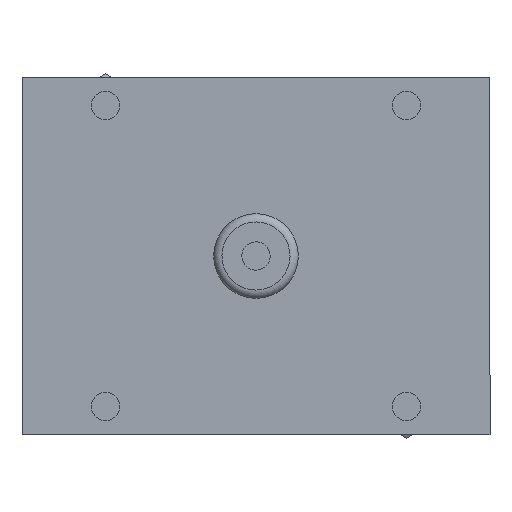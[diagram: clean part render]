
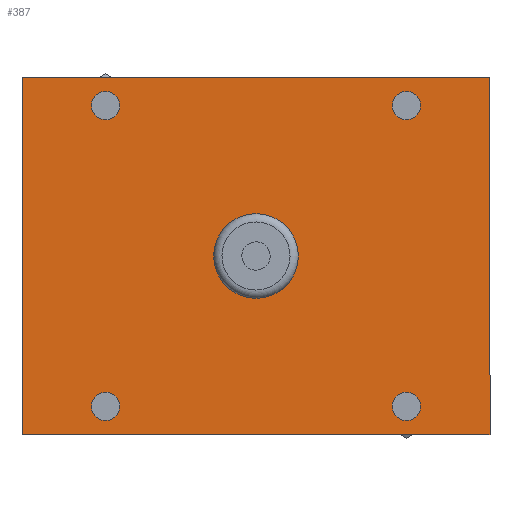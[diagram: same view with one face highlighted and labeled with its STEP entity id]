
A CAD part, front view. The second image highlights one B-rep face of the part: STEP entity #387.
In plain terms, the highlighted planar face has unit normal (0, -1, 0).
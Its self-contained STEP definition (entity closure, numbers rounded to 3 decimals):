
#277=CARTESIAN_POINT('',(0.,0.,-9.936));
#278=VERTEX_POINT('',#277);
#279=CARTESIAN_POINT('',(0.,0.0,0.));
#280=DIRECTION('',(0.0,1.0,0.0));
#281=DIRECTION('',(0.0,0.0,1.0));
#282=AXIS2_PLACEMENT_3D('',#279,#280,#281);
#283=CIRCLE('',#282,9.936);
#284=EDGE_CURVE('',#278,#278,#283,.T.);
#301=CARTESIAN_POINT('',(0.,0.,0.));
#302=DIRECTION('',(0.0,1.0,0.0));
#303=DIRECTION('',(0.0,0.0,-1.0));
#304=AXIS2_PLACEMENT_3D('',#301,#302,#303);
#305=PLANE('',#304);
#306=CARTESIAN_POINT('',(-55.,0.,42.));
#307=VERTEX_POINT('',#306);
#308=CARTESIAN_POINT('',(-55.,0.,-42.));
#309=VERTEX_POINT('',#308);
#310=CARTESIAN_POINT('',(-55.,0.,42.));
#311=DIRECTION('',(0.0,0.0,-1.0));
#312=VECTOR('',#311,84.);
#313=LINE('',#310,#312);
#314=EDGE_CURVE('',#307,#309,#313,.T.);
#315=ORIENTED_EDGE('',*,*,#314,.T.);
#316=CARTESIAN_POINT('',(55.,0.,-42.));
#317=VERTEX_POINT('',#316);
#318=CARTESIAN_POINT('',(-55.,0.,-42.));
#319=DIRECTION('',(1.0,0.0,0.0));
#320=VECTOR('',#319,110.);
#321=LINE('',#318,#320);
#322=EDGE_CURVE('',#309,#317,#321,.T.);
#323=ORIENTED_EDGE('',*,*,#322,.T.);
#324=CARTESIAN_POINT('',(55.,0.,42.));
#325=VERTEX_POINT('',#324);
#326=CARTESIAN_POINT('',(55.,0.,-42.));
#327=DIRECTION('',(0.0,0.0,1.0));
#328=VECTOR('',#327,84.0);
#329=LINE('',#326,#328);
#330=EDGE_CURVE('',#317,#325,#329,.T.);
#331=ORIENTED_EDGE('',*,*,#330,.T.);
#332=CARTESIAN_POINT('',(55.,0.,42.));
#333=DIRECTION('',(-1.0,0.0,0.0));
#334=VECTOR('',#333,110.0);
#335=LINE('',#332,#334);
#336=EDGE_CURVE('',#325,#307,#335,.T.);
#337=ORIENTED_EDGE('',*,*,#336,.T.);
#338=EDGE_LOOP('',(#315,#323,#331,#337));
#339=FACE_OUTER_BOUND('',#338,.T.);
#340=CARTESIAN_POINT('',(-35.355,0.,-32.032));
#341=VERTEX_POINT('',#340);
#342=CARTESIAN_POINT('',(-35.355,0.,-35.355));
#343=DIRECTION('',(0.0,1.0,0.0));
#344=DIRECTION('',(0.0,0.0,1.0));
#345=AXIS2_PLACEMENT_3D('',#342,#343,#344);
#346=CIRCLE('',#345,3.324);
#347=EDGE_CURVE('',#341,#341,#346,.T.);
#348=ORIENTED_EDGE('',*,*,#347,.T.);
#349=EDGE_LOOP('',(#348));
#350=FACE_BOUND('',#349,.T.);
#351=CARTESIAN_POINT('',(35.355,0.,-32.032));
#352=VERTEX_POINT('',#351);
#353=CARTESIAN_POINT('',(35.355,0.,-35.355));
#354=DIRECTION('',(0.0,1.0,0.0));
#355=DIRECTION('',(0.0,0.0,1.0));
#356=AXIS2_PLACEMENT_3D('',#353,#354,#355);
#357=CIRCLE('',#356,3.324);
#358=EDGE_CURVE('',#352,#352,#357,.T.);
#359=ORIENTED_EDGE('',*,*,#358,.T.);
#360=EDGE_LOOP('',(#359));
#361=FACE_BOUND('',#360,.T.);
#362=CARTESIAN_POINT('',(35.355,0.,38.679));
#363=VERTEX_POINT('',#362);
#364=CARTESIAN_POINT('',(35.355,0.,35.355));
#365=DIRECTION('',(0.0,1.0,0.0));
#366=DIRECTION('',(0.0,0.0,1.0));
#367=AXIS2_PLACEMENT_3D('',#364,#365,#366);
#368=CIRCLE('',#367,3.324);
#369=EDGE_CURVE('',#363,#363,#368,.T.);
#370=ORIENTED_EDGE('',*,*,#369,.T.);
#371=EDGE_LOOP('',(#370));
#372=FACE_BOUND('',#371,.T.);
#373=CARTESIAN_POINT('',(-35.355,0.,38.679));
#374=VERTEX_POINT('',#373);
#375=CARTESIAN_POINT('',(-35.355,0.,35.355));
#376=DIRECTION('',(0.0,1.0,0.0));
#377=DIRECTION('',(0.0,0.0,1.0));
#378=AXIS2_PLACEMENT_3D('',#375,#376,#377);
#379=CIRCLE('',#378,3.324);
#380=EDGE_CURVE('',#374,#374,#379,.T.);
#381=ORIENTED_EDGE('',*,*,#380,.T.);
#382=EDGE_LOOP('',(#381));
#383=FACE_BOUND('',#382,.T.);
#384=ORIENTED_EDGE('',*,*,#284,.T.);
#385=EDGE_LOOP('',(#384));
#386=FACE_BOUND('',#385,.T.);
#387=ADVANCED_FACE('',(#339,#350,#361,#372,#383,#386),#305,.F.);
